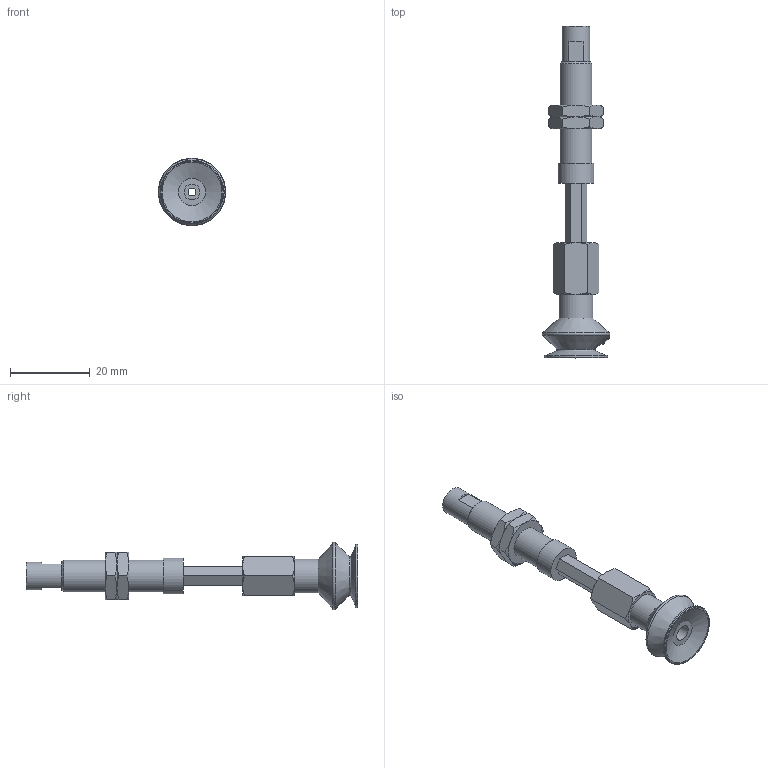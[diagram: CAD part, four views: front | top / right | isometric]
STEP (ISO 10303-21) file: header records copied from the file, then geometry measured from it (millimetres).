
FILE_DESCRIPTION(('STEP AP203'),'1');
FILE_NAME('.stp','2025-08-27T00:48:55',(' '),(' '),'Spatial InterOp 3D',' ',' ');
FILE_SCHEMA(('CONFIG_CONTROL_DESIGN'));
Length unit declared in the file: millimetre
Products named in the file (8): BNABPBTH-15A-15-※; ADAPTER; NAPATH-10A-15--M; Nut-15A-S-PB; NAPBTH-15A-15-FBODY; BPBG-15A-※; __27; BPBG-15A
Assembly tree (8 placements, depth 3):
  BNABPBTH-15A-15-※
    ADAPTER
    NAPATH-10A-15--M
    Nut-15A-S-PB  x2
    NAPBTH-15A-15-FBODY
    BPBG-15A-※
      __27
      BPBG-15A
Bounding box: 17 x 83.5 x 17 mm (x, y, z)
Volume: 5027.7 mm3; surface area: 5482.9 mm2
Topology: 7 solids, 7 shells, 138 faces, 302 edges, 186 vertices
Faces by surface type: plane 54, cone 50, cylinder 15, torus 11, bspline 8
Full cylindrical faces by diameter (mm): 2 x2, 4 x3, 4.134 x1, 6 x2, 7 x1, 7.188 x2, 8 x1, 8.5 x1, 9 x1, 16 x1
Entity records: 4597 total; most frequent: CARTESIAN_POINT 1947, DIRECTION 453, ORIENTED_EDGE 414, EDGE_CURVE 207, AXIS2_PLACEMENT_3D 194, EDGE_LOOP 167, VERTEX_POINT 146, FACE_OUTER_BOUND 140
